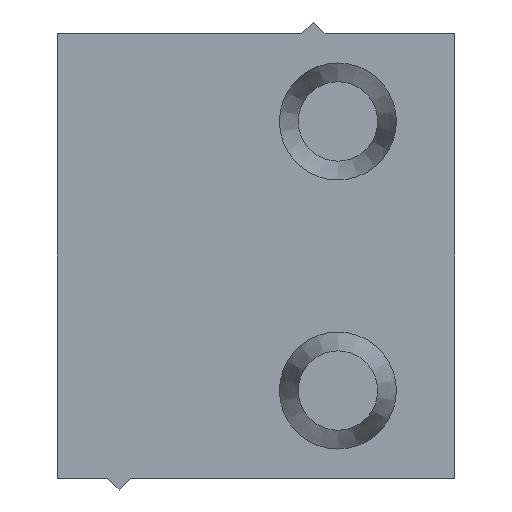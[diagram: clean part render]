
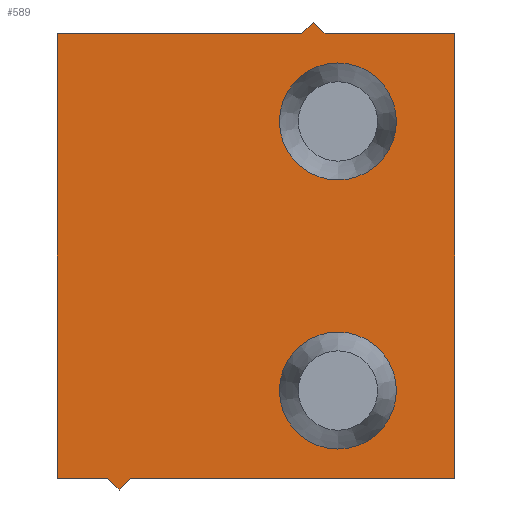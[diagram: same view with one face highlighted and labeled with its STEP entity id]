
A CAD part, left-side view. The second image highlights one B-rep face of the part: STEP entity #589.
In plain terms, the highlighted planar face has unit normal (-1, 0, 0).
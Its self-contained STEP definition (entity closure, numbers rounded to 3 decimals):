
#32=CIRCLE('',#643,2.5);
#33=CIRCLE('',#644,2.5);
#86=ORIENTED_EDGE('',*,*,#231,.T.);
#87=ORIENTED_EDGE('',*,*,#232,.F.);
#88=ORIENTED_EDGE('',*,*,#201,.T.);
#89=ORIENTED_EDGE('',*,*,#233,.F.);
#90=ORIENTED_EDGE('',*,*,#234,.F.);
#91=ORIENTED_EDGE('',*,*,#235,.T.);
#92=ORIENTED_EDGE('',*,*,#236,.F.);
#93=ORIENTED_EDGE('',*,*,#237,.F.);
#94=ORIENTED_EDGE('',*,*,#238,.F.);
#95=ORIENTED_EDGE('',*,*,#239,.F.);
#96=ORIENTED_EDGE('',*,*,#196,.F.);
#97=ORIENTED_EDGE('',*,*,#230,.T.);
#196=EDGE_CURVE('',#272,#273,#328,.T.);
#201=EDGE_CURVE('',#278,#276,#333,.T.);
#230=EDGE_CURVE('',#272,#278,#358,.T.);
#231=EDGE_CURVE('',#302,#302,#32,.T.);
#232=EDGE_CURVE('',#303,#303,#33,.F.);
#233=EDGE_CURVE('',#304,#276,#359,.T.);
#234=EDGE_CURVE('',#305,#304,#360,.T.);
#235=EDGE_CURVE('',#305,#306,#361,.T.);
#236=EDGE_CURVE('',#307,#306,#362,.T.);
#237=EDGE_CURVE('',#308,#307,#363,.T.);
#238=EDGE_CURVE('',#309,#308,#364,.T.);
#239=EDGE_CURVE('',#273,#309,#365,.T.);
#272=VERTEX_POINT('',#854);
#273=VERTEX_POINT('',#855);
#276=VERTEX_POINT('',#863);
#278=VERTEX_POINT('',#866);
#302=VERTEX_POINT('',#924);
#303=VERTEX_POINT('',#926);
#304=VERTEX_POINT('',#928);
#305=VERTEX_POINT('',#930);
#306=VERTEX_POINT('',#932);
#307=VERTEX_POINT('',#934);
#308=VERTEX_POINT('',#936);
#309=VERTEX_POINT('',#938);
#328=LINE('',#853,#388);
#333=LINE('',#865,#393);
#358=LINE('',#921,#418);
#359=LINE('',#927,#419);
#360=LINE('',#929,#420);
#361=LINE('',#931,#421);
#362=LINE('',#933,#422);
#363=LINE('',#935,#423);
#364=LINE('',#937,#424);
#365=LINE('',#939,#425);
#388=VECTOR('',#689,1000.);
#393=VECTOR('',#696,1000.);
#418=VECTOR('',#735,1000.);
#419=VECTOR('',#742,1000.);
#420=VECTOR('',#743,1000.);
#421=VECTOR('',#744,1000.);
#422=VECTOR('',#745,1000.);
#423=VECTOR('',#746,1000.);
#424=VECTOR('',#747,1000.);
#425=VECTOR('',#748,1000.);
#457=EDGE_LOOP('',(#86));
#458=EDGE_LOOP('',(#87));
#459=EDGE_LOOP('',(#88,#89,#90,#91,#92,#93,#94,#95,#96,#97));
#511=FACE_BOUND('',#457,.T.);
#512=FACE_BOUND('',#458,.T.);
#513=FACE_BOUND('',#459,.T.);
#561=PLANE('',#642);
#589=ADVANCED_FACE('',(#511,#512,#513),#561,.F.);
#642=AXIS2_PLACEMENT_3D('',#922,#736,#737);
#643=AXIS2_PLACEMENT_3D('',#923,#738,#739);
#644=AXIS2_PLACEMENT_3D('',#925,#740,#741);
#689=DIRECTION('',(0.,-1.,0.));
#696=DIRECTION('',(0.,-1.,0.));
#735=DIRECTION('',(0.,0.,-1.));
#736=DIRECTION('',(1.,0.,0.));
#737=DIRECTION('',(0.,0.,-1.));
#738=DIRECTION('',(1.,0.,0.));
#739=DIRECTION('',(0.,0.,-1.));
#740=DIRECTION('',(1.,0.,0.));
#741=DIRECTION('',(0.,0.,-1.));
#742=DIRECTION('',(0.,0.707,0.707));
#743=DIRECTION('',(0.,0.707,-0.707));
#744=DIRECTION('',(0.,-1.,0.));
#745=DIRECTION('',(0.,0.,-1.));
#746=DIRECTION('',(0.,-1.,0.));
#747=DIRECTION('',(0.,-0.707,-0.707));
#748=DIRECTION('',(0.,-0.707,0.707));
#853=CARTESIAN_POINT('',(0.,17.,9.5));
#854=CARTESIAN_POINT('',(0.,17.,9.5));
#855=CARTESIAN_POINT('',(0.,6.55,9.5));
#863=CARTESIAN_POINT('',(0.,14.85,-9.5));
#865=CARTESIAN_POINT('',(0.,17.,-9.5));
#866=CARTESIAN_POINT('',(0.,17.,-9.5));
#921=CARTESIAN_POINT('',(0.,17.,9.5));
#922=CARTESIAN_POINT('',(0.,17.,9.5));
#923=CARTESIAN_POINT('',(0.,5.,5.75));
#924=CARTESIAN_POINT('',(0.,5.,3.25));
#925=CARTESIAN_POINT('',(0.,5.,-5.75));
#926=CARTESIAN_POINT('',(0.,5.,-8.25));
#927=CARTESIAN_POINT('',(0.,14.35,-10.));
#928=CARTESIAN_POINT('',(0.,14.35,-10.));
#929=CARTESIAN_POINT('',(0.,13.85,-9.5));
#930=CARTESIAN_POINT('',(0.,13.85,-9.5));
#931=CARTESIAN_POINT('',(0.,17.,-9.5));
#932=CARTESIAN_POINT('',(0.,0.,-9.5));
#933=CARTESIAN_POINT('',(0.,0.,9.5));
#934=CARTESIAN_POINT('',(0.,0.,9.5));
#935=CARTESIAN_POINT('',(0.,17.,9.5));
#936=CARTESIAN_POINT('',(0.,5.55,9.5));
#937=CARTESIAN_POINT('',(0.,6.05,10.));
#938=CARTESIAN_POINT('',(0.,6.05,10.));
#939=CARTESIAN_POINT('',(0.,6.55,9.5));
